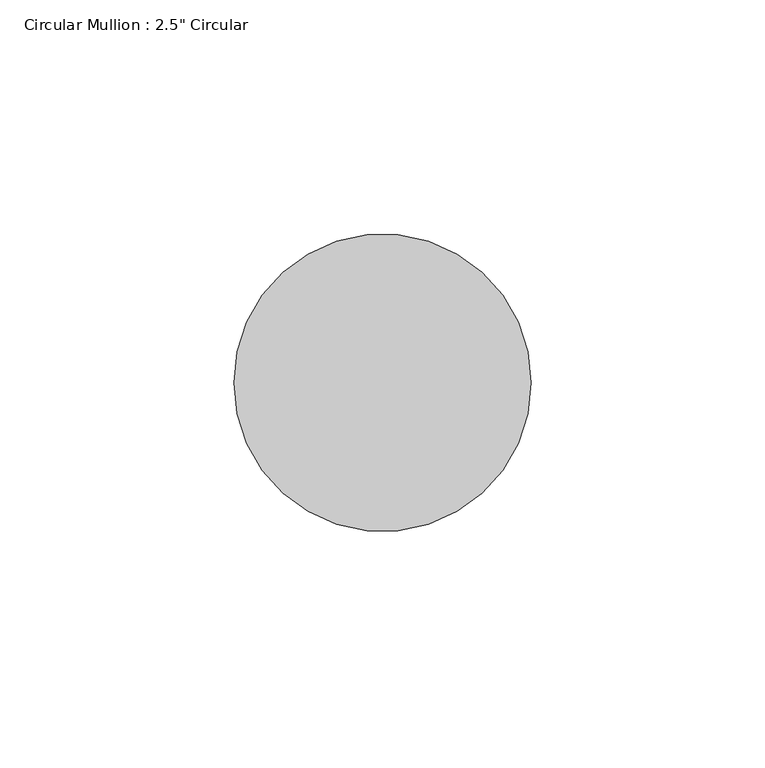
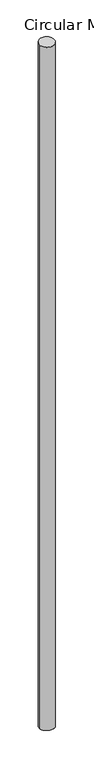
"""IFC4 building model written with IfcOpenShell, lengths in millimetres: member geometry."""

from ifc_helpers import new_model, si_unit, frame, origin, origin_with_axes, place, context, project, spatial, ellipse_curve, source, transform, mapped, element, save
from ifc_brep_helpers import plane_surface, cylinder_surface, advanced_brep


def member_57142e44(model_context):
    return source(origin(), model_context, "Body", "AdvancedBrep", [
        advanced_brep(
        [(-31.75, 0.0, -0.3818078), (31.75, 0.0, 0.3818078), (31.75, 0.0, -3055.9416939), (-31.75, 0.0, -3055.3001348)],
        [
            (0, 1, ellipse_curve(frame((0.0, 0.0, 0.0), z_axis=(0.012003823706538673, 0.058720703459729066, -0.998202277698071), x_axis=(0.19992041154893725, 0.9779773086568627, 0.059935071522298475)), 31.8071805, 31.75)),
            (1, 2),
            (2, 3, ellipse_curve(frame((0.0, 0.0, -3055.6209144), z_axis=(0.010083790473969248, 0.061279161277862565, 0.9980697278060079), x_axis=(-0.16205785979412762, -0.984825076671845, 0.062103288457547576)), 31.8114047, 31.75)),
            (3, 0),
            (1, 0, ellipse_curve(frame((0.0, 0.0, 0.0), z_axis=(0.012003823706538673, 0.058720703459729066, -0.998202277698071), x_axis=(0.19992041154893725, 0.9779773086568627, 0.059935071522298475)), 31.8071805, 31.75)),
            (3, 2, ellipse_curve(frame((0.0, 0.0, -3055.6209144), z_axis=(0.010083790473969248, 0.061279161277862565, 0.9980697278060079), x_axis=(-0.16205785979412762, -0.984825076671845, 0.062103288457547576)), 31.8114047, 31.75)),
        ],
        [
            cylinder_surface(origin_with_axes(), 31.75),
            plane_surface(frame((298.6243273, -61.0454843, 0.0), z_axis=(-0.012003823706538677, -0.05872070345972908, 0.9982022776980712), x_axis=(-0.19992041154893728, -0.9779773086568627, -0.05993507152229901))),
            plane_surface(frame((300.7552228, -49.4907663, -3055.6209144), z_axis=(-0.01008379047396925, -0.06127916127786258, -0.9980697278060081), x_axis=(-0.1620578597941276, -0.9848250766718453, 0.06210328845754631))),
        ],
        [
            (0, [[1, 2, 3, 4]]),
            (0, [[5, -4, 6, -2]]),
            (1, [[-1, -5]]),
            (2, [[-6, -3]]),
        ],
    ),
    ])


if __name__ == "__main__":
    model = new_model("IFC4")
    model_context = context("Model", 3, world=origin())
    ifc_project = project(units=[si_unit("LENGTHUNIT", "METRE", prefix="MILLI")], contexts=[model_context])
    site = spatial("IfcSite", under=ifc_project)
    building = spatial("IfcBuilding", under=site)
    placement = place(None, origin())
    member_shape = member_57142e44(model_context)
    element("IfcMember", 1, ObjectType="Circular Mullion : 2.5\" Circular", at=placement, inside=building, context=model_context, shape_type="MappedRepresentation", body=[
        mapped(member_shape, transform((0.0, 0.0, 0.0), x_axis=(1.0, 0.0, 0.0), y_axis=(0.0, 1.0, 0.0), z_axis=(0.0, 0.0, 1.0))),
    ])
    save(model, "model.ifc")
